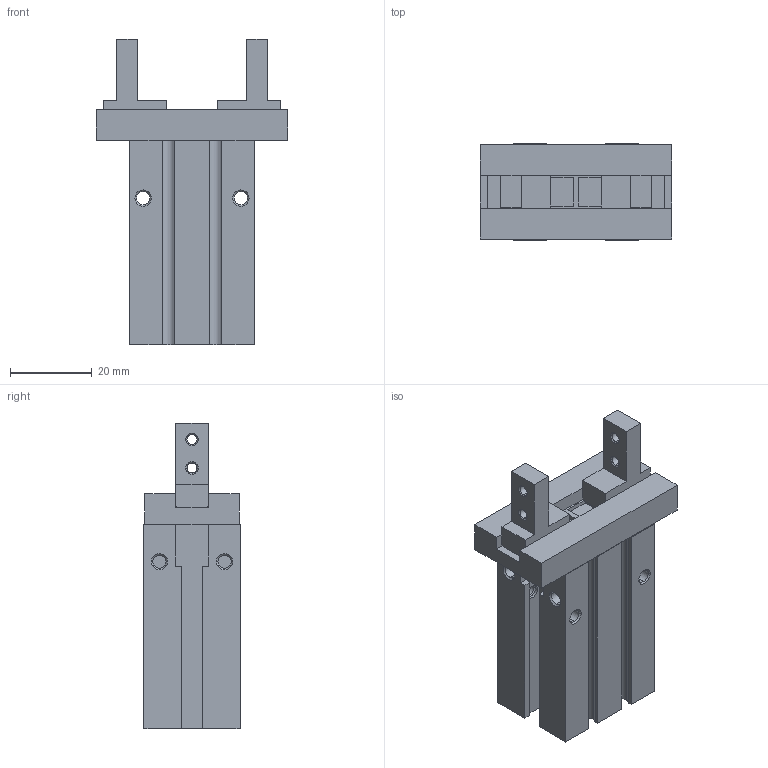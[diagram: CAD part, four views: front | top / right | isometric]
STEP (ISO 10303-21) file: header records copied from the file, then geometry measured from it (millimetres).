
FILE_DESCRIPTION (( 'STEP AP203' ), '1' );
FILE_NAME ('GMHZL2-16S.STEP', '2024-07-24T07:33:40', ( '微软用户' ), ( '微软中国' ), 'SwSTEP 2.0', 'SolidWorks 2018', '' );
FILE_SCHEMA (( 'CONFIG_CONTROL_DESIGN' ));
Length unit declared in the file: millimetre
Products named in the file (3): _MHZL2-16S_Finger(0); GMHZL2-16S; _MHZL2-16S_Body(0)
Assembly tree (3 placements, depth 2):
  GMHZL2-16S
    _MHZL2-16S_Body(0)
    _MHZL2-16S_Finger(0)  x2
Bounding box: 47 x 23.6 x 75 mm (x, y, z)
Volume: 37981.9 mm3; surface area: 14586.4 mm2
Topology: 3 solids, 3 shells, 215 faces, 550 edges, 350 vertices
Faces by surface type: plane 123, cylinder 50, cone 42
Entity records: 5971 total; most frequent: CARTESIAN_POINT 999, DIRECTION 994, ORIENTED_EDGE 956, EDGE_CURVE 478, AXIS2_PLACEMENT_3D 333, LINE 328, VECTOR 328, VERTEX_POINT 306
